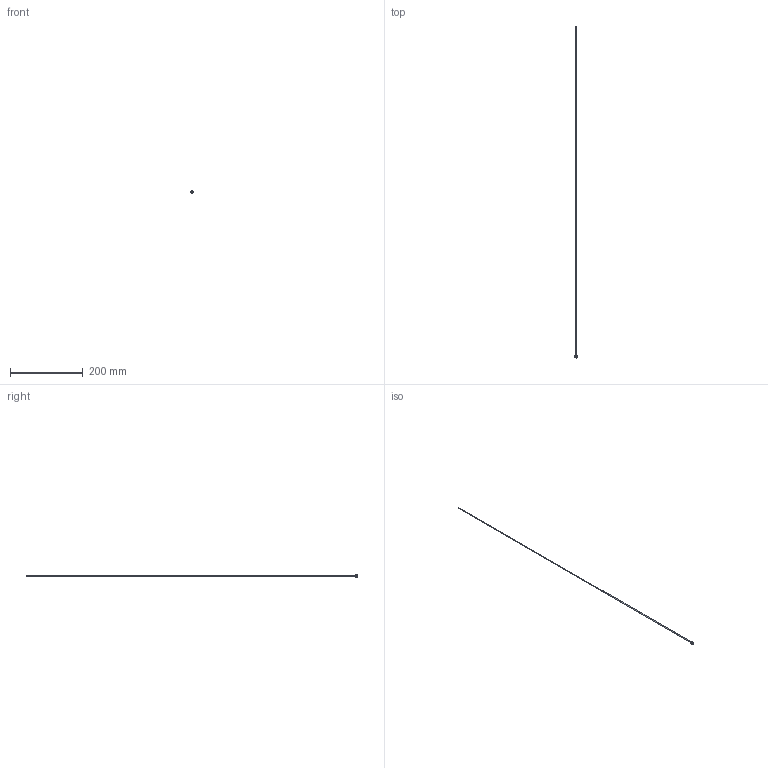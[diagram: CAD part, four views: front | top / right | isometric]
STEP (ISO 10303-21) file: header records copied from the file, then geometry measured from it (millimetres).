
FILE_DESCRIPTION(/* description */ (''),/* implementation_level */ '2;1');
FILE_NAME(/* name */ 'C:/Users/drich/Desktop/PT16-093-36 v1.step',/* time_stamp */ '2019-12-27T15:15:57-06:00',/* author */ (''),/* organization */ (''),/* preprocessor_version */ 'ST-DEVELOPER v18',/* originating_system */ 'Autodesk Translation Framework v8.12.0.6',/* authorisation */ '');
FILE_SCHEMA (('AUTOMOTIVE_DESIGN { 1 0 10303 214 3 1 1 }'));
Length unit declared in the file: inch
Products named in the file (1): PT16-093-36
Bounding box: 7.62 x 914.4 x 7.62 mm (x, y, z)
Volume: 1301.5 mm3; surface area: 12320.5 mm2
Topology: 1 solids, 1 shells, 19 faces, 48 edges, 34 vertices
Faces by surface type: plane 11, cylinder 4, torus 2, cone 2
Full cylindrical faces by diameter (mm): 1.93 x1, 2.286 x1, 4.724 x1, 7.616 x1
Entity records: 633 total; most frequent: DIRECTION 112, CARTESIAN_POINT 102, ORIENTED_EDGE 96, EDGE_CURVE 48, AXIS2_PLACEMENT_3D 44, VERTEX_POINT 34, CIRCLE 24, EDGE_LOOP 24
